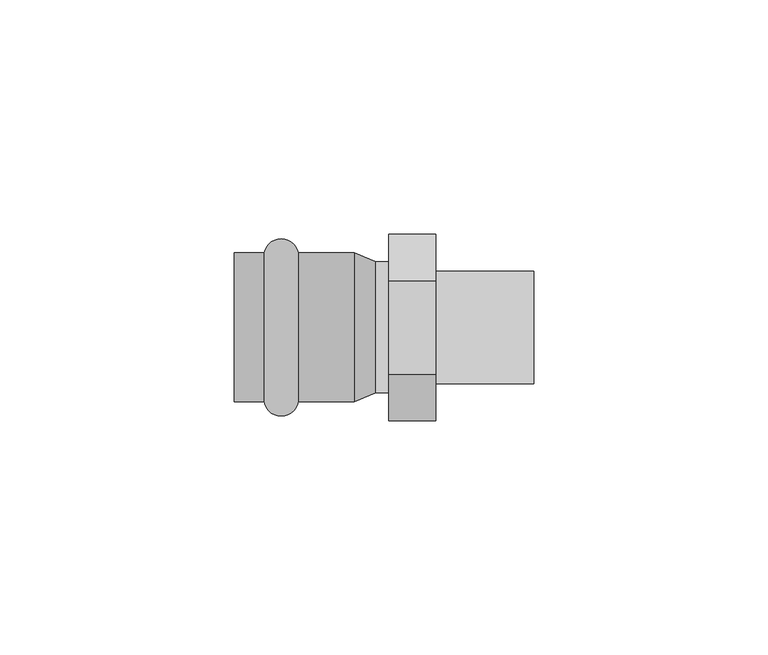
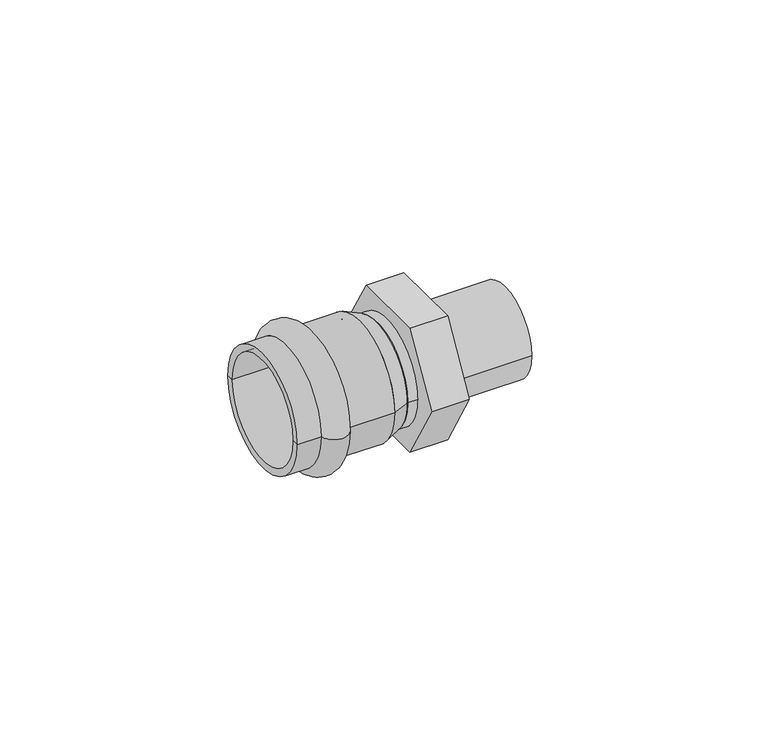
"""IFC4 building model written with IfcOpenShell, lengths in millimetres: pipe fitting geometry, VALTEC_VTi.901.I_Соединитель прямой с переходом на наружную резьбу_Нержавеющая сталь : VTi.901.I."""

from ifc_helpers import new_model, si_unit, point, frame, origin, origin_2d, place, context, project, spatial, polyline, circle_curve, ellipse_curve, trimmed, segment, composite_curve, outline, extrude, source, transform, mapped, element, save
from ifc_brep_helpers import plane_surface, cylinder_surface, revolved_surface, advanced_brep


def pipe_fitting_fa4fd6a3(model_context):
    return source(origin(), model_context, "Body", "SolidModel", [
        advanced_brep(
        [(-31.6442346, -15.9, 0.0), (-31.6442346, 15.9, 0.0), (-24.2957654, 15.9, 0.0), (-24.2957654, -15.9, 0.0), (-38.02, -15.9, 0.0), (-38.02, 15.9, 0.0), (-38.02, -14.0, 0.0), (-38.02, 14.0, 0.0), (-12.42, -14.0, 0.0), (-12.42, 14.0, 0.0), (-12.42, -15.9, 0.0), (-12.42, 15.9, 0.0)],
        [
            (0, 1, circle_curve(frame((-31.6442346, 0.0, 0.0), z_axis=(1.0, 0.0, 0.0), x_axis=(0.0, 1.0, 0.0)), 15.9)),
            (1, 2, circle_curve(frame((-27.97, 15.15, 0.0), z_axis=(0.0, 0.0, -1.0), x_axis=(1.0, 0.0, 0.0)), 3.75)),
            (2, 3, circle_curve(frame((-24.2957654, 0.0, 0.0), z_axis=(-1.0, 0.0, 0.0), x_axis=(0.0, 1.0, 0.0)), 15.9)),
            (3, 0, circle_curve(frame((-27.97, -15.15, 0.0), z_axis=(0.0, 0.0, -1.0), x_axis=(1.0, 0.0, 0.0)), 3.75)),
            (1, 0, circle_curve(frame((-31.6442346, 0.0, 0.0), z_axis=(1.0, 0.0, 0.0), x_axis=(0.0, 1.0, 0.0)), 15.9)),
            (3, 2, circle_curve(frame((-24.2957654, 0.0, 0.0), z_axis=(-1.0, 0.0, 0.0), x_axis=(0.0, 1.0, 0.0)), 15.9)),
            (4, 5, circle_curve(frame((-38.02, 0.0, 0.0), z_axis=(1.0, 0.0, 0.0), x_axis=(0.0, 1.0, 0.0)), 15.9)),
            (5, 1),
            (0, 4),
            (5, 4, circle_curve(frame((-38.02, 0.0, 0.0), z_axis=(1.0, 0.0, 0.0), x_axis=(0.0, 1.0, 0.0)), 15.9)),
            (6, 7, circle_curve(frame((-38.02, 0.0, 0.0), z_axis=(1.0, 0.0, 0.0), x_axis=(0.0, 1.0, 0.0)), 14.0)),
            (7, 5),
            (4, 6),
            (7, 6, circle_curve(frame((-38.02, 0.0, 0.0), z_axis=(1.0, 0.0, 0.0), x_axis=(0.0, 1.0, 0.0)), 14.0)),
            (8, 9, circle_curve(frame((-12.42, 0.0, 0.0), z_axis=(1.0, 0.0, 0.0), x_axis=(0.0, 1.0, 0.0)), 14.0)),
            (9, 7),
            (6, 8),
            (9, 8, circle_curve(frame((-12.42, 0.0, 0.0), z_axis=(1.0, 0.0, 0.0), x_axis=(0.0, 1.0, 0.0)), 14.0)),
            (10, 11, circle_curve(frame((-12.42, 0.0, 0.0), z_axis=(1.0, 0.0, 0.0), x_axis=(0.0, 1.0, 0.0)), 15.9)),
            (11, 9),
            (8, 10),
            (11, 10, circle_curve(frame((-12.42, 0.0, 0.0), z_axis=(1.0, 0.0, 0.0), x_axis=(0.0, 1.0, 0.0)), 15.9)),
            (2, 11),
            (10, 3),
        ],
        [
            revolved_surface(trimmed(ellipse_curve(frame((-27.97, 15.15, 0.0), z_axis=(0.0, 0.0, 1.0), x_axis=(1.0, 0.0, 0.0)), 3.75, 3.75), [point((-24.2957654, 15.9, 0.0))], [point((-31.6442346, 15.9, 0.0))], True, "CARTESIAN"), (-41.5564426, 0.0, 0.0), (-1.0, 0.0, 0.0)),
            cylinder_surface(frame((-41.5564426, 0.0, 0.0), z_axis=(-1.0, 0.0, 0.0), x_axis=(0.0, 1.0, 0.0)), 15.9),
            plane_surface(frame((-38.02, 0.0, 0.0), z_axis=(-1.0, 0.0, 0.0), x_axis=(0.0, 1.0, 0.0))),
            revolved_surface(polyline([(-38.02, 14.0, 0.0), (-12.420000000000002, 14.0, 0.0)]), (-41.5564426, 0.0, 0.0), (-1.0, 0.0, 0.0)),
            plane_surface(frame((-12.42, 0.0, 0.0), z_axis=(1.0, 0.0, 0.0), x_axis=(0.0, 1.0, 0.0))),
        ],
        [
            (0, [[1, 2, 3, 4]]),
            (0, [[5, -4, 6, -2]]),
            (1, [[7, 8, -1, 9]]),
            (1, [[10, -9, -5, -8]]),
            (2, [[11, 12, -7, 13]]),
            (2, [[14, -13, -10, -12]]),
            (3, [[15, 16, -11, 17]]),
            (3, [[18, -17, -14, -16]]),
            (4, [[19, 20, -15, 21]]),
            (4, [[22, -21, -18, -20]]),
            (1, [[-3, 23, -19, 24]]),
            (1, [[-6, -24, -22, -23]]),
        ],
    ),
        extrude(outline(polyline([(-19.9185843, 0.0), (-9.9592921, 17.25), (9.9592921, 17.25), (19.9185843, 0.0), (9.9592921, -17.25), (-9.9592921, -17.25), (-19.9185843, 0.0)])), frame((-4.98, 0.0, 0.0), z_axis=(1.0, 0.0, 0.0), x_axis=(0.0, 1.0, 0.0)), (0.0, 0.0, 1.0), 9.96),
        extrude(outline(composite_curve([segment(trimmed(circle_curve(origin_2d(), 14.0), [point((-14.0, 0.0))], [point((14.0, 0.0))], False, "CARTESIAN"), True, "CONTINUOUS"), segment(trimmed(circle_curve(origin_2d(), 14.0), [point((14.0, 0.0))], [point((-14.0, 0.0))], False, "CARTESIAN"), True, "CONTINUOUS")], self_intersect=False)), frame((-7.8183127, 0.0, 0.0), z_axis=(1.0, 0.0, 0.0), x_axis=(0.0, 1.0, 0.0)), (0.0, 0.0, 1.0), 2.8383127),
        advanced_brep(
        [(-12.42, -15.9, 0.0), (-12.42, 15.9, 0.0), (-7.8183127, -14.0, 0.0), (-7.8183127, 14.0, 0.0)],
        [
            (0, 1, circle_curve(frame((-12.42, 0.0, 0.0), z_axis=(-1.0, 0.0, 0.0), x_axis=(0.0, -1.0, 0.0)), 15.9)),
            (1, 0, circle_curve(frame((-12.42, 0.0, 0.0), z_axis=(-1.0, 0.0, 0.0), x_axis=(0.0, 1.0, 0.0)), 15.9)),
            (2, 3, circle_curve(frame((-7.8183127, 0.0, 0.0), z_axis=(1.0, 0.0, 0.0), x_axis=(0.0, 1.0, 0.0)), 14.0)),
            (3, 2, circle_curve(frame((-7.8183127, 0.0, 0.0), z_axis=(1.0, 0.0, 0.0), x_axis=(0.0, -1.0, 0.0)), 14.0)),
            (2, 0),
            (1, 3),
        ],
        [
            plane_surface(frame((-12.42, 0.0, 0.0), z_axis=(-1.0, 0.0, 0.0), x_axis=(0.0, 0.0, -1.0))),
            plane_surface(frame((-7.8183127, 0.0, 0.0), z_axis=(1.0, 0.0, 0.0), x_axis=(0.0, 0.0, -1.0))),
            revolved_surface(polyline([(-7.8183127, -14.000000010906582, 0.0), (-12.420000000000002, -15.9, 0.0)]), (26.0888571, 0.0, 0.0), (-1.0, 0.0, 0.0)),
            revolved_surface(polyline([(-7.8183127, 14.000000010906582, 0.0), (-12.420000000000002, 15.9, 0.0)]), (26.0888571, 0.0, 0.0), (-1.0, 0.0, 0.0)),
        ],
        [
            (0, [[1, 2]]),
            (1, [[3, 4]]),
            (2, [[-3, 5, -2, 6]]),
            (3, [[-4, -6, -1, -5]]),
        ],
    ),
        extrude(outline(composite_curve([segment(trimmed(circle_curve(origin_2d(), 12.0), [point((-12.0, 0.0))], [point((12.0, 0.0))], False, "CARTESIAN"), True, "CONTINUOUS"), segment(trimmed(circle_curve(origin_2d(), 12.0), [point((12.0, 0.0))], [point((-12.0, 0.0))], False, "CARTESIAN"), True, "CONTINUOUS")], self_intersect=False), holes=[composite_curve([segment(trimmed(circle_curve(origin_2d(), 10.0), [point((-10.0, 0.0))], [point((10.0, 0.0))], True, "CARTESIAN"), True, "CONTINUOUS"), segment(trimmed(circle_curve(origin_2d(), 10.0), [point((10.0, 0.0))], [point((-10.0, 0.0))], True, "CARTESIAN"), True, "CONTINUOUS")], self_intersect=False)]), frame((4.98, 0.0, 0.0), z_axis=(1.0, 0.0, 0.0), x_axis=(0.0, 1.0, 0.0)), (0.0, 0.0, 1.0), 21.0),
    ])


if __name__ == "__main__":
    model = new_model("IFC4")
    model_context = context("Model", 3, world=origin())
    ifc_project = project(units=[si_unit("LENGTHUNIT", "METRE", prefix="MILLI")], contexts=[model_context])
    site = spatial("IfcSite", under=ifc_project)
    building = spatial("IfcBuilding", under=site)
    placement = place(None, origin())
    pipe_fitting_shape = pipe_fitting_fa4fd6a3(model_context)
    element("IfcPipeFitting", 1, ObjectType="VALTEC_VTi.901.I_Соединитель прямой с переходом на наружную резьбу_Нержавеющая сталь : VTi.901.I", at=placement, inside=building, context=model_context, shape_type="MappedRepresentation", body=[
        mapped(pipe_fitting_shape, transform((0.0, 0.0, 0.0), x_axis=(1.0, 0.0, 0.0), y_axis=(0.0, 1.0, 0.0), z_axis=(0.0, 0.0, 1.0))),
    ])
    save(model, "model.ifc")
